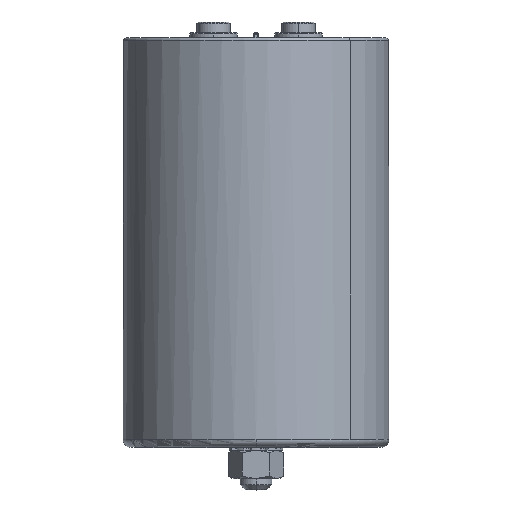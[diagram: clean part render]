
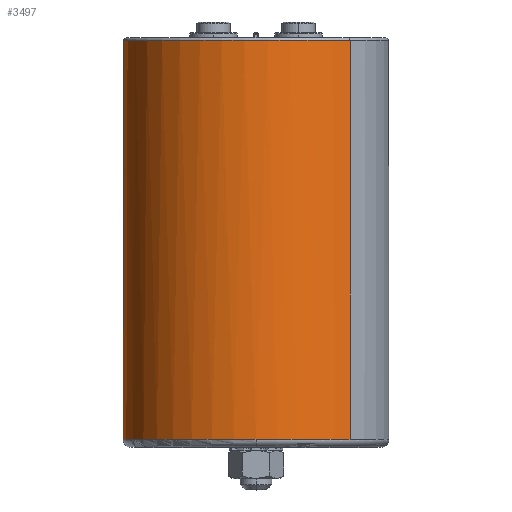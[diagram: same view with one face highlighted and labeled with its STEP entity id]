
A CAD part, top view. The second image highlights one B-rep face of the part: STEP entity #3497.
In plain terms, the highlighted cylindrical face has radius 50 mm (diameter 100 mm), a partial arc.
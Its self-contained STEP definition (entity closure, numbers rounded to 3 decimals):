
#181 = ORIENTED_EDGE ( 'NONE', *, *, #2139, .T. ) ;
#410 = DIRECTION ( 'NONE',  ( 0., 1., 0. ) ) ;
#1012 = ORIENTED_EDGE ( 'NONE', *, *, #6816, .T. ) ;
#1111 = CIRCLE ( 'NONE', #7122, 50. ) ;
#1289 = EDGE_CURVE ( 'NONE', #7734, #8872, #12379, .T. ) ;
#1364 = FACE_OUTER_BOUND ( 'NONE', #1550, .T. ) ;
#1412 = LINE ( 'NONE', #8881, #3517 ) ;
#1550 = EDGE_LOOP ( 'NONE', ( #11234, #5220, #9469, #181, #1012 ) ) ;
#1944 = CARTESIAN_POINT ( 'NONE',  ( 35.355, 3., 35.355 ) ) ;
#2061 = VERTEX_POINT ( 'NONE', #5214 ) ;
#2134 = LINE ( 'NONE', #2384, #7152 ) ;
#2139 = EDGE_CURVE ( 'NONE', #7799, #8528, #2134, .T. ) ;
#2384 = CARTESIAN_POINT ( 'NONE',  ( 35.355, 144., 35.355 ) ) ;
#2446 = CIRCLE ( 'NONE', #9454, 50. ) ;
#3294 = CARTESIAN_POINT ( 'NONE',  ( 0., 3., 0. ) ) ;
#3497 = ADVANCED_FACE ( 'NONE', ( #1364 ), #5202, .T. ) ;
#3517 = VECTOR ( 'NONE', #8120, 1000. ) ;
#4256 = DIRECTION ( 'NONE',  ( 0.707, 0., 0.707 ) ) ;
#4368 = DIRECTION ( 'NONE',  ( 0., 1., 0. ) ) ;
#4591 = DIRECTION ( 'NONE',  ( 0., -1., 0. ) ) ;
#5032 = DIRECTION ( 'NONE',  ( 0., 1., 0. ) ) ;
#5202 = CYLINDRICAL_SURFACE ( 'NONE', #7391, 50. ) ;
#5214 = CARTESIAN_POINT ( 'NONE',  ( -35.355, 153., -35.355 ) ) ;
#5220 = ORIENTED_EDGE ( 'NONE', *, *, #1289, .T. ) ;
#6778 = DIRECTION ( 'NONE',  ( 0., 0., 1. ) ) ;
#6816 = EDGE_CURVE ( 'NONE', #8528, #2061, #2446, .T. ) ;
#7122 = AXIS2_PLACEMENT_3D ( 'NONE', #11540, #12355, #6778 ) ;
#7152 = VECTOR ( 'NONE', #5032, 1000. ) ;
#7391 = AXIS2_PLACEMENT_3D ( 'NONE', #9016, #410, #4256 ) ;
#7567 = CARTESIAN_POINT ( 'NONE',  ( 35.355, 153., 35.355 ) ) ;
#7734 = VERTEX_POINT ( 'NONE', #11043 ) ;
#7799 = VERTEX_POINT ( 'NONE', #1944 ) ;
#8004 = DIRECTION ( 'NONE',  ( 0., 0., 1. ) ) ;
#8120 = DIRECTION ( 'NONE',  ( 0., 1., 0. ) ) ;
#8227 = CARTESIAN_POINT ( 'NONE',  ( 0., 153., 0. ) ) ;
#8528 = VERTEX_POINT ( 'NONE', #7567 ) ;
#8531 = AXIS2_PLACEMENT_3D ( 'NONE', #3294, #4368, #8004 ) ;
#8872 = VERTEX_POINT ( 'NONE', #10113 ) ;
#8881 = CARTESIAN_POINT ( 'NONE',  ( -35.355, 144., -35.355 ) ) ;
#9016 = CARTESIAN_POINT ( 'NONE',  ( 0., 144., 0. ) ) ;
#9454 = AXIS2_PLACEMENT_3D ( 'NONE', #8227, #4591, #12236 ) ;
#9469 = ORIENTED_EDGE ( 'NONE', *, *, #10254, .T. ) ;
#10113 = CARTESIAN_POINT ( 'NONE',  ( 0., 3., 50. ) ) ;
#10254 = EDGE_CURVE ( 'NONE', #8872, #7799, #1111, .T. ) ;
#10648 = EDGE_CURVE ( 'NONE', #7734, #2061, #1412, .T. ) ;
#11043 = CARTESIAN_POINT ( 'NONE',  ( -35.355, 3., -35.355 ) ) ;
#11234 = ORIENTED_EDGE ( 'NONE', *, *, #10648, .F. ) ;
#11540 = CARTESIAN_POINT ( 'NONE',  ( 0., 3., 0. ) ) ;
#12236 = DIRECTION ( 'NONE',  ( -0.707, 0., -0.707 ) ) ;
#12355 = DIRECTION ( 'NONE',  ( 0., 1., 0. ) ) ;
#12379 = CIRCLE ( 'NONE', #8531, 50. ) ;
